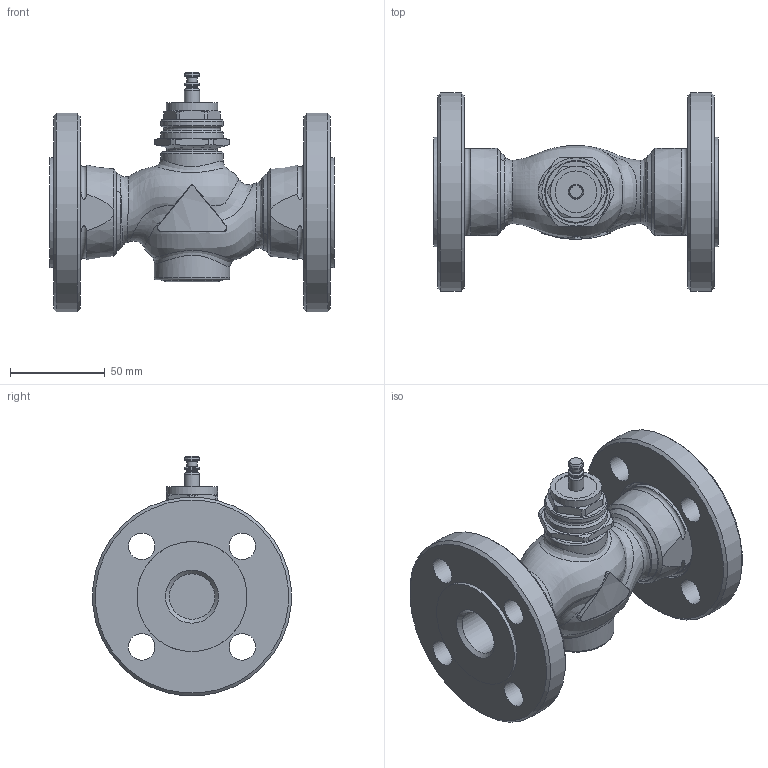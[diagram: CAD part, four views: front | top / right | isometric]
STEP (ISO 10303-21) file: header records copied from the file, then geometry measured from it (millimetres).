
FILE_DESCRIPTION(/* description */ (''),/* implementation_level */ '2;1');
FILE_NAME(/* name */ 'rv111s_dn20_2_F.stp',/* time_stamp */ '2012-02-28T10:00:54+01:00',/* author */ ('KLIMES'),/* organization */ ('LDM'),/* preprocessor_version */ 'ST-DEVELOPER v11',/* originating_system */ 'SIEMENS PLM Software NX 7.0',/* authorisation */ '');
FILE_SCHEMA (('CONFIG_CONTROL_DESIGN'));
Length unit declared in the file: millimetre
Products named in the file (1): klimEAFB3cx3
Bounding box: 150 x 104.6 x 126.3 mm (x, y, z)
Volume: 444911.7 mm3; surface area: 81906.4 mm2
Topology: 3 solids, 3 shells, 194 faces, 445 edges, 279 vertices
Faces by surface type: cylinder 57, plane 51, cone 48, bspline 20, torus 18
Full cylindrical faces by diameter (mm): 5.3 x1, 5.5 x1, 8 x3, 14 x8, 22 x1, 24 x2, 26.5 x1, 27 x1, 32.5 x1, 33 x3, 38.952 x2, 40 x1, 41.91 x2, 42 x2, 58 x2, 105 x2
Entity records: 10708 total; most frequent: CARTESIAN_POINT 6854, DIRECTION 760, ORIENTED_EDGE 672, AXIS2_PLACEMENT_3D 352, EDGE_CURVE 336, EDGE_LOOP 314, VERTEX_POINT 248, FACE_BOUND 222
